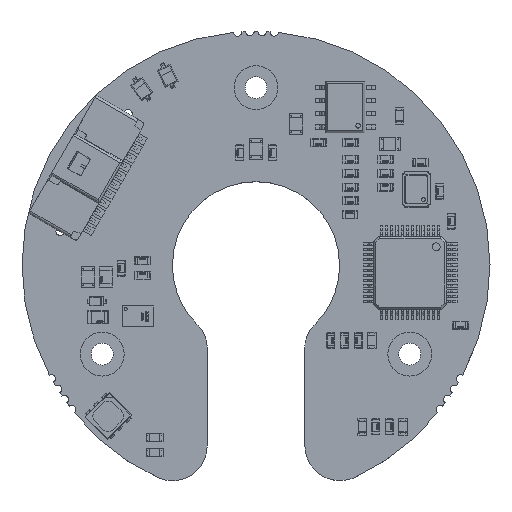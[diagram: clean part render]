
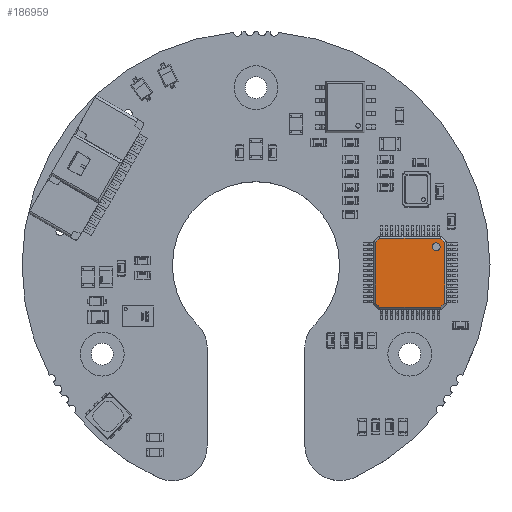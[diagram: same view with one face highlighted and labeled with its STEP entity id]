
A CAD part, top view. The second image highlights one B-rep face of the part: STEP entity #186959.
In plain terms, the highlighted planar face has unit normal (0, 0, 1).
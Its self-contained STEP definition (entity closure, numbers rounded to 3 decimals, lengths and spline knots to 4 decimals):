
#722 = VERTEX_POINT ( 'NONE', #32571 ) ;
#7307 = VECTOR ( 'NONE', #249595, 1000. ) ;
#7709 = VERTEX_POINT ( 'NONE', #317097 ) ;
#10635 = CARTESIAN_POINT ( 'NONE',  ( 37.4022, -22.9507, 1.587 ) ) ;
#32571 = CARTESIAN_POINT ( 'NONE',  ( 36.9851, -17.5257, 1.587 ) ) ;
#44415 = EDGE_CURVE ( 'NONE', #297923, #350019, #168380, .T. ) ;
#44564 = DIRECTION ( 'NONE',  ( -0.707, -0.707, 0. ) ) ;
#56727 = VECTOR ( 'NONE', #61276, 1000. ) ;
#59548 = ORIENTED_EDGE ( 'NONE', *, *, #374091, .T. ) ;
#60896 = CARTESIAN_POINT ( 'NONE',  ( 31.1851, -19.6507, 1.587 ) ) ;
#61276 = DIRECTION ( 'NONE',  ( -0.707, -0.707, 0. ) ) ;
#65321 = ORIENTED_EDGE ( 'NONE', *, *, #176189, .T. ) ;
#83894 = FACE_BOUND ( 'NONE', #240807, .T. ) ;
#88197 = ORIENTED_EDGE ( 'NONE', *, *, #261147, .T. ) ;
#103262 = CARTESIAN_POINT ( 'NONE',  ( 31.5679, -22.9507, 1.587 ) ) ;
#106929 = EDGE_CURVE ( 'NONE', #350019, #341225, #366507, .T. ) ;
#107355 = CARTESIAN_POINT ( 'NONE',  ( 31.1851, -16.7335, 1.587 ) ) ;
#110080 = VERTEX_POINT ( 'NONE', #222742 ) ;
#113499 = CARTESIAN_POINT ( 'NONE',  ( 37.7851, -16.7335, 1.587 ) ) ;
#122982 = CARTESIAN_POINT ( 'NONE',  ( 31.5679, -16.3507, 1.587 ) ) ;
#129138 = LINE ( 'NONE', #163787, #7307 ) ;
#130130 = EDGE_CURVE ( 'NONE', #199977, #286276, #256558, .T. ) ;
#138824 = DIRECTION ( 'NONE',  ( 0.707, -0.707, 0. ) ) ;
#150542 = CARTESIAN_POINT ( 'NONE',  ( 34.4851, -16.3507, 1.587 ) ) ;
#154422 = LINE ( 'NONE', #256953, #334991 ) ;
#159598 = EDGE_CURVE ( 'NONE', #307823, #199977, #349314, .T. ) ;
#163787 = CARTESIAN_POINT ( 'NONE',  ( 37.7851, -19.6507, 1.587 ) ) ;
#168380 = LINE ( 'NONE', #248884, #213521 ) ;
#168550 = EDGE_CURVE ( 'NONE', #286276, #297923, #129138, .T. ) ;
#170907 = PLANE ( 'NONE',  #210013 ) ;
#175031 = EDGE_LOOP ( 'NONE', ( #195205, #344134, #365687, #176462, #198192, #194882, #88197, #320985 ) ) ;
#175822 = DIRECTION ( 'NONE',  ( 1., 0., 0. ) ) ;
#176189 = EDGE_CURVE ( 'NONE', #722, #110080, #181087, .T. ) ;
#176462 = ORIENTED_EDGE ( 'NONE', *, *, #168550, .F. ) ;
#179614 = DIRECTION ( 'NONE',  ( 0., 0., 1. ) ) ;
#179798 = VECTOR ( 'NONE', #138824, 1000. ) ;
#181087 = CIRCLE ( 'NONE', #280753, 0.375 ) ;
#184202 = LINE ( 'NONE', #60896, #360445 ) ;
#186959 = ADVANCED_FACE ( 'NONE', ( #259779, #83894 ), #170907, .T. ) ;
#194882 = ORIENTED_EDGE ( 'NONE', *, *, #159598, .F. ) ;
#195205 = ORIENTED_EDGE ( 'NONE', *, *, #339242, .F. ) ;
#198192 = ORIENTED_EDGE ( 'NONE', *, *, #130130, .F. ) ;
#199977 = VERTEX_POINT ( 'NONE', #332621 ) ;
#204790 = DIRECTION ( 'NONE',  ( 0., -1., 0. ) ) ;
#210013 = AXIS2_PLACEMENT_3D ( 'NONE', #323349, #179614, #204790 ) ;
#213521 = VECTOR ( 'NONE', #44564, 1000. ) ;
#221232 = DIRECTION ( 'NONE',  ( -1., 0., 0. ) ) ;
#222742 = CARTESIAN_POINT ( 'NONE',  ( 36.9851, -16.7757, 1.587 ) ) ;
#227547 = DIRECTION ( 'NONE',  ( 0., -1., 0. ) ) ;
#240807 = EDGE_LOOP ( 'NONE', ( #65321, #59548 ) ) ;
#241944 = CARTESIAN_POINT ( 'NONE',  ( 31.5679, -16.3507, 1.587 ) ) ;
#248884 = CARTESIAN_POINT ( 'NONE',  ( 37.7851, -22.5678, 1.587 ) ) ;
#249595 = DIRECTION ( 'NONE',  ( 0., -1., 0. ) ) ;
#250202 = VECTOR ( 'NONE', #175822, 1000. ) ;
#254084 = CARTESIAN_POINT ( 'NONE',  ( 34.4851, -22.9507, 1.587 ) ) ;
#256558 = LINE ( 'NONE', #306685, #179798 ) ;
#256953 = CARTESIAN_POINT ( 'NONE',  ( 31.5679, -22.9507, 1.587 ) ) ;
#259779 = FACE_OUTER_BOUND ( 'NONE', #175031, .T. ) ;
#261147 = EDGE_CURVE ( 'NONE', #307823, #347572, #305058, .T. ) ;
#262707 = DIRECTION ( 'NONE',  ( 0., 1., 0. ) ) ;
#263300 = AXIS2_PLACEMENT_3D ( 'NONE', #371398, #370155, #227547 ) ;
#263308 = CIRCLE ( 'NONE', #263300, 0.375 ) ;
#271472 = DIRECTION ( 'NONE',  ( 0., -1., 0. ) ) ;
#280753 = AXIS2_PLACEMENT_3D ( 'NONE', #302989, #358514, #271472 ) ;
#286018 = EDGE_CURVE ( 'NONE', #7709, #347572, #184202, .T. ) ;
#286276 = VERTEX_POINT ( 'NONE', #113499 ) ;
#297923 = VERTEX_POINT ( 'NONE', #321166 ) ;
#302989 = CARTESIAN_POINT ( 'NONE',  ( 36.9851, -17.1507, 1.587 ) ) ;
#305058 = LINE ( 'NONE', #122982, #56727 ) ;
#306685 = CARTESIAN_POINT ( 'NONE',  ( 37.4022, -16.3507, 1.587 ) ) ;
#307823 = VERTEX_POINT ( 'NONE', #241944 ) ;
#316114 = DIRECTION ( 'NONE',  ( -0.707, 0.707, 0. ) ) ;
#317097 = CARTESIAN_POINT ( 'NONE',  ( 31.1851, -22.5678, 1.587 ) ) ;
#320985 = ORIENTED_EDGE ( 'NONE', *, *, #286018, .F. ) ;
#321166 = CARTESIAN_POINT ( 'NONE',  ( 37.7851, -22.5678, 1.587 ) ) ;
#323349 = CARTESIAN_POINT ( 'NONE',  ( 34.4851, -19.6507, 1.587 ) ) ;
#332621 = CARTESIAN_POINT ( 'NONE',  ( 37.4022, -16.3507, 1.587 ) ) ;
#334991 = VECTOR ( 'NONE', #316114, 1000. ) ;
#339242 = EDGE_CURVE ( 'NONE', #341225, #7709, #154422, .T. ) ;
#341225 = VERTEX_POINT ( 'NONE', #103262 ) ;
#344134 = ORIENTED_EDGE ( 'NONE', *, *, #106929, .F. ) ;
#347572 = VERTEX_POINT ( 'NONE', #107355 ) ;
#349314 = LINE ( 'NONE', #150542, #250202 ) ;
#350019 = VERTEX_POINT ( 'NONE', #10635 ) ;
#358514 = DIRECTION ( 'NONE',  ( 0., 0., -1. ) ) ;
#360445 = VECTOR ( 'NONE', #262707, 1000. ) ;
#362111 = VECTOR ( 'NONE', #221232, 1000. ) ;
#365687 = ORIENTED_EDGE ( 'NONE', *, *, #44415, .F. ) ;
#366507 = LINE ( 'NONE', #254084, #362111 ) ;
#370155 = DIRECTION ( 'NONE',  ( 0., 0., -1. ) ) ;
#371398 = CARTESIAN_POINT ( 'NONE',  ( 36.9851, -17.1507, 1.587 ) ) ;
#374091 = EDGE_CURVE ( 'NONE', #110080, #722, #263308, .T. ) ;
